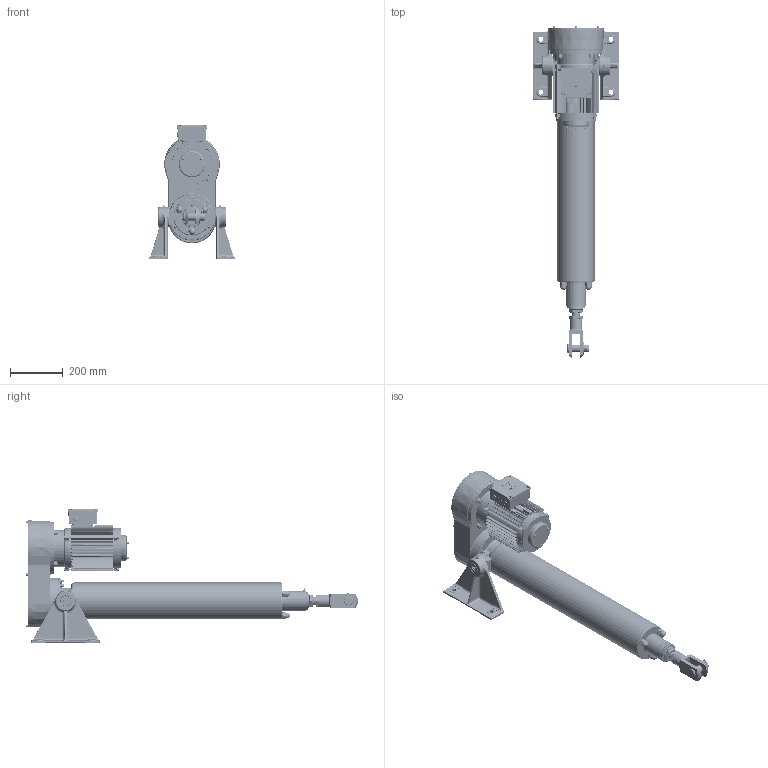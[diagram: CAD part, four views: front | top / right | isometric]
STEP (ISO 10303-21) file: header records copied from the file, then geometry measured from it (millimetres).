
FILE_DESCRIPTION( ( '153-599-4' ), '1' );
FILE_NAME( '//TOMOKO/Katalogbilder/RBs rendern/austausch pomplun/mit identnr/T1C6-0600-160-239-0.stp', 'Unknown', ( 'Christoph Hahmann' ), ( 'RACO-ELEKTRO-MASCHINEN GmbH' ), 'PSStep 17.0.49', 'Solid Edge ST 7', ' ' );
FILE_SCHEMA( ( 'AUTOMOTIVE_DESIGN { 1 0 10303 214 1 1 1 1 }' ) );
Length unit declared in the file: millimetre
Products named in the file (10): Assem1; 03.01-06 kpl; 02.14-06-0600; 01.15-06-0600; 02.01-06 kpl; 01.14-06 kpl2; 01.01-06 Gabelkopf; 03.65-06-7; 12. 1-5-7 Ø200; BGR 6-7
Assembly tree (10 placements, depth 2):
  Assem1
    03.01-06 kpl
    02.14-06-0600
    01.15-06-0600
    02.01-06 kpl
    01.14-06 kpl2
    01.01-06 Gabelkopf
    03.65-06-7  x2
    12. 1-5-7 Ø200
    BGR 6-7
Bounding box: 325 x 1255.6 x 509 mm (x, y, z)
Surface area: 2192424.8 mm2 (no closed solid volume)
Topology: 0 solids, 6132 shells, 6132 faces, 32455 edges, 31655 vertices
Faces by surface type: plane 3135, cylinder 1382, cone 477, torus 438, bspline 387, sphere 160, extrusion 148, revolution 5
Full cylindrical faces by diameter (mm): 1.6 x2, 2 x1, 2.459 x12, 3 x4, 3.242 x16, 4 x2, 4.02 x4, 4.134 x23, 4.773 x6, 4.917 x6, 5 x12, 5.3 x3, 5.4 x4, 5.5 x8, 5.7 x3, 6 x12, 6.647 x7, 7 x11, 7.33 x1, 7.5 x3, 8 x15, 8.15 x1, 8.16 x4, 8.2 x1, 8.4 x2, 8.5 x4, 8.9 x4, 9 x10, 9.15 x3, 10 x21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
Entity records: 422310 total; most frequent: CARTESIAN_POINT 144663, DIRECTION 49537, VERTEX_POINT 30579, ORIENTED_EDGE 30526, EDGE_CURVE 30526, AXIS2_PLACEMENT_3D 17042, VECTOR 15448, LINE 15300
